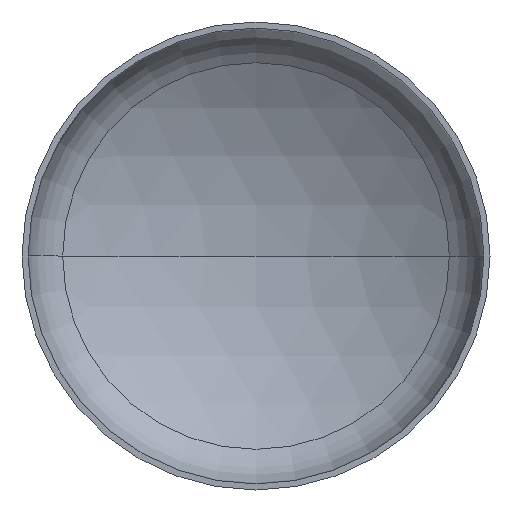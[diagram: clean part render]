
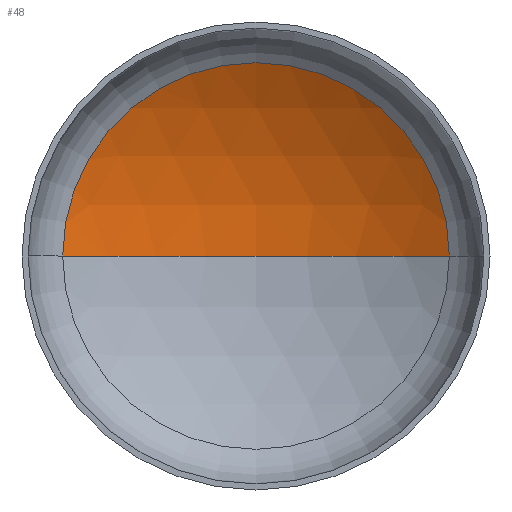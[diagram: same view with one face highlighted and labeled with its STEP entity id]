
A CAD part, front view. The second image highlights one B-rep face of the part: STEP entity #48.
In plain terms, the highlighted spherical face has radius 1360 mm.
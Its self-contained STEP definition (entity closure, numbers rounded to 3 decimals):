
#10 = ORIENTED_EDGE ( 'NONE', *, *, #187, .T. ) ;
#15 = AXIS2_PLACEMENT_3D ( 'NONE', #201, #356, #225 ) ;
#27 = FACE_OUTER_BOUND ( 'NONE', #118, .T. ) ;
#29 = VERTEX_POINT ( 'NONE', #305 ) ;
#41 = ORIENTED_EDGE ( 'NONE', *, *, #163, .T. ) ;
#48 = ADVANCED_FACE ( 'NONE', ( #27 ), #193, .F. ) ;
#51 = AXIS2_PLACEMENT_3D ( 'NONE', #334, #196, #353 ) ;
#56 = AXIS2_PLACEMENT_3D ( 'NONE', #190, #309, #167 ) ;
#68 = VERTEX_POINT ( 'NONE', #158 ) ;
#86 = AXIS2_PLACEMENT_3D ( 'NONE', #162, #210, #310 ) ;
#91 = CARTESIAN_POINT ( 'NONE',  ( -702.255, 292.656, 0. ) ) ;
#118 = EDGE_LOOP ( 'NONE', ( #263, #10, #41 ) ) ;
#137 = VERTEX_POINT ( 'NONE', #91 ) ;
#158 = CARTESIAN_POINT ( 'NONE',  ( 702.255, 292.656, 0. ) ) ;
#162 = CARTESIAN_POINT ( 'NONE',  ( 0., -872.006, 0. ) ) ;
#163 = EDGE_CURVE ( 'NONE', #68, #137, #345, .T. ) ;
#167 = DIRECTION ( 'NONE',  ( 1., 0., 0. ) ) ;
#187 = EDGE_CURVE ( 'NONE', #29, #68, #390, .T. ) ;
#190 = CARTESIAN_POINT ( 'NONE',  ( 0., 292.656, 0. ) ) ;
#193 = SPHERICAL_SURFACE ( 'NONE', #86, 1360. ) ;
#196 = DIRECTION ( 'NONE',  ( 0., 0., -1. ) ) ;
#201 = CARTESIAN_POINT ( 'NONE',  ( 0., -872.006, 0. ) ) ;
#210 = DIRECTION ( 'NONE',  ( 0., 0., -1. ) ) ;
#225 = DIRECTION ( 'NONE',  ( 1., 0., 0. ) ) ;
#263 = ORIENTED_EDGE ( 'NONE', *, *, #352, .F. ) ;
#265 = CIRCLE ( 'NONE', #15, 1360. ) ;
#305 = CARTESIAN_POINT ( 'NONE',  ( 0., 487.994, 0. ) ) ;
#309 = DIRECTION ( 'NONE',  ( 0., -1., 0. ) ) ;
#310 = DIRECTION ( 'NONE',  ( -1., 0., 0. ) ) ;
#334 = CARTESIAN_POINT ( 'NONE',  ( 0., -872.006, 0. ) ) ;
#345 = CIRCLE ( 'NONE', #56, 702.255 ) ;
#352 = EDGE_CURVE ( 'NONE', #29, #137, #265, .T. ) ;
#353 = DIRECTION ( 'NONE',  ( -1., 0., 0. ) ) ;
#356 = DIRECTION ( 'NONE',  ( 0., 0., 1. ) ) ;
#390 = CIRCLE ( 'NONE', #51, 1360. ) ;
